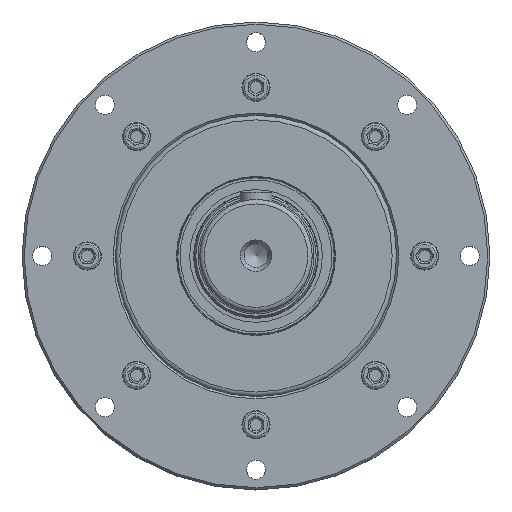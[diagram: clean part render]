
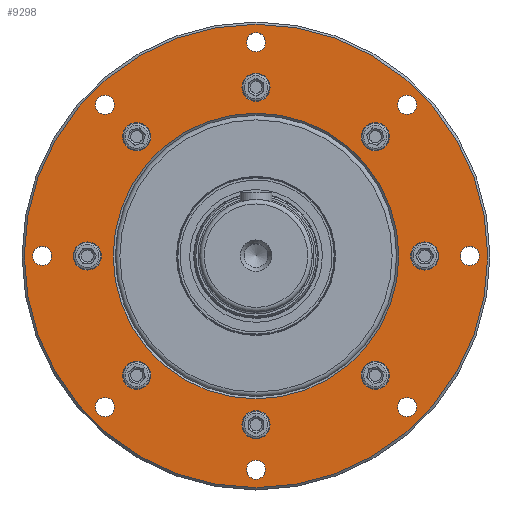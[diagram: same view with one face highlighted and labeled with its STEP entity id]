
A CAD part, top view. The second image highlights one B-rep face of the part: STEP entity #9298.
In plain terms, the highlighted planar face has unit normal (0, 0, 1).
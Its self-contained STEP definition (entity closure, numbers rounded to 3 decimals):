
#8436=CARTESIAN_POINT('',(-206.,0.,-14.));
#8437=VERTEX_POINT('',#8436);
#8438=CARTESIAN_POINT('',(0.,0.,-14.));
#8439=DIRECTION('',(0.0,0.0,1.0));
#8440=DIRECTION('',(1.0,0.0,0.0));
#8441=AXIS2_PLACEMENT_3D('',#8438,#8439,#8440);
#8442=CIRCLE('',#8441,206.);
#8443=EDGE_CURVE('',#8437,#8437,#8442,.T.);
#8503=CARTESIAN_POINT('',(127.,0.,-14.));
#8504=VERTEX_POINT('',#8503);
#8505=CARTESIAN_POINT('',(0.,0.,-14.));
#8506=DIRECTION('',(0.0,0.0,-1.0));
#8507=DIRECTION('',(1.0,0.0,0.0));
#8508=AXIS2_PLACEMENT_3D('',#8505,#8506,#8507);
#8509=CIRCLE('',#8508,127.);
#8510=EDGE_CURVE('',#8504,#8504,#8509,.T.);
#8559=CARTESIAN_POINT('',(12.5,150.,-14.));
#8560=VERTEX_POINT('',#8559);
#8561=CARTESIAN_POINT('',(0.,150.,-14.));
#8562=DIRECTION('',(0.0,0.0,1.0));
#8563=DIRECTION('',(1.0,0.0,0.0));
#8564=AXIS2_PLACEMENT_3D('',#8561,#8562,#8563);
#8565=CIRCLE('',#8564,12.5);
#8566=EDGE_CURVE('',#8560,#8560,#8565,.T.);
#8615=CARTESIAN_POINT('',(12.5,-150.,-14.));
#8616=VERTEX_POINT('',#8615);
#8617=CARTESIAN_POINT('',(0.,-150.,-14.));
#8618=DIRECTION('',(0.0,0.0,1.0));
#8619=DIRECTION('',(1.0,0.0,0.0));
#8620=AXIS2_PLACEMENT_3D('',#8617,#8618,#8619);
#8621=CIRCLE('',#8620,12.5);
#8622=EDGE_CURVE('',#8616,#8616,#8621,.T.);
#8671=CARTESIAN_POINT('',(118.566,106.066,-14.));
#8672=VERTEX_POINT('',#8671);
#8673=CARTESIAN_POINT('',(106.066,106.066,-14.));
#8674=DIRECTION('',(0.0,0.0,1.0));
#8675=DIRECTION('',(1.0,0.0,0.0));
#8676=AXIS2_PLACEMENT_3D('',#8673,#8674,#8675);
#8677=CIRCLE('',#8676,12.5);
#8678=EDGE_CURVE('',#8672,#8672,#8677,.T.);
#8727=CARTESIAN_POINT('',(-93.566,-106.066,-14.));
#8728=VERTEX_POINT('',#8727);
#8729=CARTESIAN_POINT('',(-106.066,-106.066,-14.));
#8730=DIRECTION('',(0.0,0.0,1.0));
#8731=DIRECTION('',(1.0,0.0,0.0));
#8732=AXIS2_PLACEMENT_3D('',#8729,#8730,#8731);
#8733=CIRCLE('',#8732,12.5);
#8734=EDGE_CURVE('',#8728,#8728,#8733,.T.);
#8783=CARTESIAN_POINT('',(162.5,0.,-14.));
#8784=VERTEX_POINT('',#8783);
#8785=CARTESIAN_POINT('',(150.,0.,-14.));
#8786=DIRECTION('',(0.0,0.0,1.0));
#8787=DIRECTION('',(1.0,0.0,0.0));
#8788=AXIS2_PLACEMENT_3D('',#8785,#8786,#8787);
#8789=CIRCLE('',#8788,12.5);
#8790=EDGE_CURVE('',#8784,#8784,#8789,.T.);
#8839=CARTESIAN_POINT('',(-137.5,0.,-14.));
#8840=VERTEX_POINT('',#8839);
#8841=CARTESIAN_POINT('',(-150.,0.,-14.));
#8842=DIRECTION('',(0.0,0.0,1.0));
#8843=DIRECTION('',(1.0,0.0,0.0));
#8844=AXIS2_PLACEMENT_3D('',#8841,#8842,#8843);
#8845=CIRCLE('',#8844,12.5);
#8846=EDGE_CURVE('',#8840,#8840,#8845,.T.);
#8895=CARTESIAN_POINT('',(118.566,-106.066,-14.));
#8896=VERTEX_POINT('',#8895);
#8897=CARTESIAN_POINT('',(106.066,-106.066,-14.));
#8898=DIRECTION('',(0.0,0.0,1.0));
#8899=DIRECTION('',(1.0,0.0,0.0));
#8900=AXIS2_PLACEMENT_3D('',#8897,#8898,#8899);
#8901=CIRCLE('',#8900,12.5);
#8902=EDGE_CURVE('',#8896,#8896,#8901,.T.);
#8951=CARTESIAN_POINT('',(-93.566,106.066,-14.));
#8952=VERTEX_POINT('',#8951);
#8953=CARTESIAN_POINT('',(-106.066,106.066,-14.));
#8954=DIRECTION('',(0.0,0.0,1.0));
#8955=DIRECTION('',(1.0,0.0,0.0));
#8956=AXIS2_PLACEMENT_3D('',#8953,#8954,#8955);
#8957=CIRCLE('',#8956,12.5);
#8958=EDGE_CURVE('',#8952,#8952,#8957,.T.);
#9007=CARTESIAN_POINT('',(8.5,190.,-14.));
#9008=VERTEX_POINT('',#9007);
#9009=CARTESIAN_POINT('',(0.,190.,-14.));
#9010=DIRECTION('',(0.0,0.0,1.0));
#9011=DIRECTION('',(1.0,0.0,0.0));
#9012=AXIS2_PLACEMENT_3D('',#9009,#9010,#9011);
#9013=CIRCLE('',#9012,8.5);
#9014=EDGE_CURVE('',#9008,#9008,#9013,.T.);
#9035=CARTESIAN_POINT('',(8.5,-190.,-14.));
#9036=VERTEX_POINT('',#9035);
#9037=CARTESIAN_POINT('',(0.,-190.,-14.));
#9038=DIRECTION('',(0.0,0.0,1.0));
#9039=DIRECTION('',(1.0,0.0,0.0));
#9040=AXIS2_PLACEMENT_3D('',#9037,#9038,#9039);
#9041=CIRCLE('',#9040,8.5);
#9042=EDGE_CURVE('',#9036,#9036,#9041,.T.);
#9063=CARTESIAN_POINT('',(142.85,134.35,-14.));
#9064=VERTEX_POINT('',#9063);
#9065=CARTESIAN_POINT('',(134.35,134.35,-14.));
#9066=DIRECTION('',(0.0,0.0,1.0));
#9067=DIRECTION('',(1.0,0.0,0.0));
#9068=AXIS2_PLACEMENT_3D('',#9065,#9066,#9067);
#9069=CIRCLE('',#9068,8.5);
#9070=EDGE_CURVE('',#9064,#9064,#9069,.T.);
#9091=CARTESIAN_POINT('',(-125.85,-134.35,-14.));
#9092=VERTEX_POINT('',#9091);
#9093=CARTESIAN_POINT('',(-134.35,-134.35,-14.));
#9094=DIRECTION('',(0.0,0.0,1.0));
#9095=DIRECTION('',(1.0,0.0,0.0));
#9096=AXIS2_PLACEMENT_3D('',#9093,#9094,#9095);
#9097=CIRCLE('',#9096,8.5);
#9098=EDGE_CURVE('',#9092,#9092,#9097,.T.);
#9119=CARTESIAN_POINT('',(198.5,0.,-14.));
#9120=VERTEX_POINT('',#9119);
#9121=CARTESIAN_POINT('',(190.0,0.,-14.));
#9122=DIRECTION('',(0.0,0.0,1.0));
#9123=DIRECTION('',(1.0,0.0,0.0));
#9124=AXIS2_PLACEMENT_3D('',#9121,#9122,#9123);
#9125=CIRCLE('',#9124,8.5);
#9126=EDGE_CURVE('',#9120,#9120,#9125,.T.);
#9147=CARTESIAN_POINT('',(-181.5,0.,-14.));
#9148=VERTEX_POINT('',#9147);
#9149=CARTESIAN_POINT('',(-190.,0.,-14.));
#9150=DIRECTION('',(0.0,0.0,1.0));
#9151=DIRECTION('',(1.0,0.0,0.0));
#9152=AXIS2_PLACEMENT_3D('',#9149,#9150,#9151);
#9153=CIRCLE('',#9152,8.5);
#9154=EDGE_CURVE('',#9148,#9148,#9153,.T.);
#9175=CARTESIAN_POINT('',(142.85,-134.35,-14.));
#9176=VERTEX_POINT('',#9175);
#9177=CARTESIAN_POINT('',(134.35,-134.35,-14.));
#9178=DIRECTION('',(0.0,0.0,1.0));
#9179=DIRECTION('',(1.0,0.0,0.0));
#9180=AXIS2_PLACEMENT_3D('',#9177,#9178,#9179);
#9181=CIRCLE('',#9180,8.5);
#9182=EDGE_CURVE('',#9176,#9176,#9181,.T.);
#9203=CARTESIAN_POINT('',(-125.85,134.35,-14.));
#9204=VERTEX_POINT('',#9203);
#9205=CARTESIAN_POINT('',(-134.35,134.35,-14.));
#9206=DIRECTION('',(0.0,0.0,1.0));
#9207=DIRECTION('',(1.0,0.0,0.0));
#9208=AXIS2_PLACEMENT_3D('',#9205,#9206,#9207);
#9209=CIRCLE('',#9208,8.5);
#9210=EDGE_CURVE('',#9204,#9204,#9209,.T.);
#9239=CARTESIAN_POINT('',(0.,0.,-14.));
#9240=DIRECTION('',(0.0,0.0,1.0));
#9241=DIRECTION('',(1.0,0.0,0.0));
#9242=AXIS2_PLACEMENT_3D('',#9239,#9240,#9241);
#9243=PLANE('',#9242);
#9244=ORIENTED_EDGE('',*,*,#8443,.T.);
#9245=EDGE_LOOP('',(#9244));
#9246=FACE_OUTER_BOUND('',#9245,.T.);
#9247=ORIENTED_EDGE('',*,*,#8510,.T.);
#9248=EDGE_LOOP('',(#9247));
#9249=FACE_BOUND('',#9248,.T.);
#9250=ORIENTED_EDGE('',*,*,#8566,.F.);
#9251=EDGE_LOOP('',(#9250));
#9252=FACE_BOUND('',#9251,.T.);
#9253=ORIENTED_EDGE('',*,*,#8622,.F.);
#9254=EDGE_LOOP('',(#9253));
#9255=FACE_BOUND('',#9254,.T.);
#9256=ORIENTED_EDGE('',*,*,#8678,.F.);
#9257=EDGE_LOOP('',(#9256));
#9258=FACE_BOUND('',#9257,.T.);
#9259=ORIENTED_EDGE('',*,*,#8734,.F.);
#9260=EDGE_LOOP('',(#9259));
#9261=FACE_BOUND('',#9260,.T.);
#9262=ORIENTED_EDGE('',*,*,#8790,.F.);
#9263=EDGE_LOOP('',(#9262));
#9264=FACE_BOUND('',#9263,.T.);
#9265=ORIENTED_EDGE('',*,*,#8846,.F.);
#9266=EDGE_LOOP('',(#9265));
#9267=FACE_BOUND('',#9266,.T.);
#9268=ORIENTED_EDGE('',*,*,#8902,.F.);
#9269=EDGE_LOOP('',(#9268));
#9270=FACE_BOUND('',#9269,.T.);
#9271=ORIENTED_EDGE('',*,*,#8958,.F.);
#9272=EDGE_LOOP('',(#9271));
#9273=FACE_BOUND('',#9272,.T.);
#9274=ORIENTED_EDGE('',*,*,#9014,.F.);
#9275=EDGE_LOOP('',(#9274));
#9276=FACE_BOUND('',#9275,.T.);
#9277=ORIENTED_EDGE('',*,*,#9042,.F.);
#9278=EDGE_LOOP('',(#9277));
#9279=FACE_BOUND('',#9278,.T.);
#9280=ORIENTED_EDGE('',*,*,#9070,.F.);
#9281=EDGE_LOOP('',(#9280));
#9282=FACE_BOUND('',#9281,.T.);
#9283=ORIENTED_EDGE('',*,*,#9098,.F.);
#9284=EDGE_LOOP('',(#9283));
#9285=FACE_BOUND('',#9284,.T.);
#9286=ORIENTED_EDGE('',*,*,#9126,.F.);
#9287=EDGE_LOOP('',(#9286));
#9288=FACE_BOUND('',#9287,.T.);
#9289=ORIENTED_EDGE('',*,*,#9154,.F.);
#9290=EDGE_LOOP('',(#9289));
#9291=FACE_BOUND('',#9290,.T.);
#9292=ORIENTED_EDGE('',*,*,#9182,.F.);
#9293=EDGE_LOOP('',(#9292));
#9294=FACE_BOUND('',#9293,.T.);
#9295=ORIENTED_EDGE('',*,*,#9210,.F.);
#9296=EDGE_LOOP('',(#9295));
#9297=FACE_BOUND('',#9296,.T.);
#9298=ADVANCED_FACE('',(#9246,#9249,#9252,#9255,#9258,#9261,#9264,#9267,#9270,#9273,#9276,#9279,#9282,#9285,#9288,#9291,#9294,#9297),#9243,.T.);
